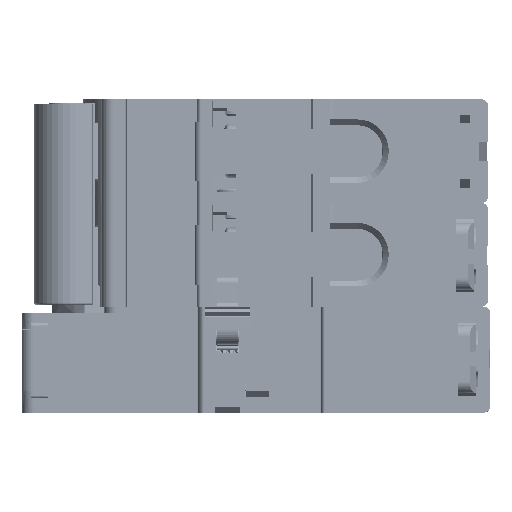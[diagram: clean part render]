
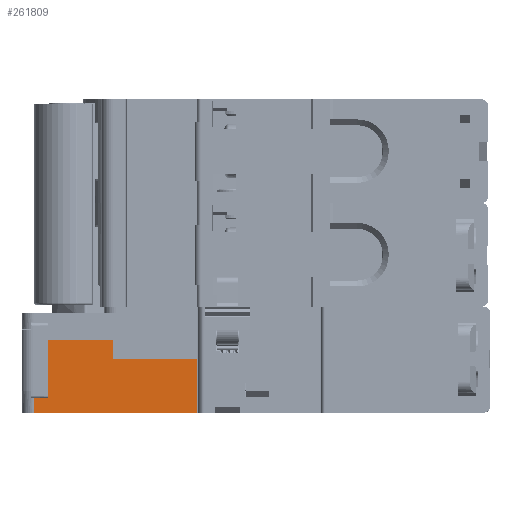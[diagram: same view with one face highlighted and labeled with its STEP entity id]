
A CAD part, left-side view. The second image highlights one B-rep face of the part: STEP entity #261809.
In plain terms, the highlighted planar face has unit normal (-1, 0, 0).
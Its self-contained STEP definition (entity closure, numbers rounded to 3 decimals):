
#5207 = EDGE_CURVE ( 'NONE', #152888, #232212, #65084, .T. ) ;
#13719 = CARTESIAN_POINT ( 'NONE',  ( 19., 75., -6.7 ) ) ;
#17415 = CARTESIAN_POINT ( 'NONE',  ( 19., 77.5, -9.1 ) ) ;
#19503 = DIRECTION ( 'NONE',  ( 0., 0., 1. ) ) ;
#20745 = ORIENTED_EDGE ( 'NONE', *, *, #106282, .F. ) ;
#33142 = LINE ( 'NONE', #302821, #155406 ) ;
#42258 = VECTOR ( 'NONE', #82289, 1000. ) ;
#49910 = VECTOR ( 'NONE', #199335, 1000. ) ;
#50610 = VERTEX_POINT ( 'NONE', #115491 ) ;
#65084 = LINE ( 'NONE', #213416, #250812 ) ;
#82289 = DIRECTION ( 'NONE',  ( 0., -1., 0. ) ) ;
#97123 = EDGE_CURVE ( 'NONE', #153062, #303165, #128031, .T. ) ;
#103109 = DIRECTION ( 'NONE',  ( 0., 0., -1. ) ) ;
#106282 = EDGE_CURVE ( 'NONE', #153062, #152888, #352819, .T. ) ;
#115491 = CARTESIAN_POINT ( 'NONE',  ( 19., 64., 0. ) ) ;
#118830 = EDGE_CURVE ( 'NONE', #213914, #330143, #33142, .T. ) ;
#122339 = ORIENTED_EDGE ( 'NONE', *, *, #5207, .F. ) ;
#127373 = VECTOR ( 'NONE', #239613, 1000. ) ;
#128031 = LINE ( 'NONE', #381807, #332991 ) ;
#135002 = ORIENTED_EDGE ( 'NONE', *, *, #97123, .T. ) ;
#136941 = VERTEX_POINT ( 'NONE', #214230 ) ;
#142724 = EDGE_CURVE ( 'NONE', #136941, #50610, #242187, .T. ) ;
#142864 = ORIENTED_EDGE ( 'NONE', *, *, #142724, .F. ) ;
#143753 = PLANE ( 'NONE',  #345114 ) ;
#152888 = VERTEX_POINT ( 'NONE', #13719 ) ;
#153062 = VERTEX_POINT ( 'NONE', #270366 ) ;
#155406 = VECTOR ( 'NONE', #177201, 1000. ) ;
#161004 = ORIENTED_EDGE ( 'NONE', *, *, #315538, .F. ) ;
#177201 = DIRECTION ( 'NONE',  ( 0., 0., 1. ) ) ;
#185062 = VECTOR ( 'NONE', #324611, 1000. ) ;
#187170 = ORIENTED_EDGE ( 'NONE', *, *, #118830, .T. ) ;
#188439 = EDGE_LOOP ( 'NONE', ( #353132, #187170, #161004, #142864, #215175, #122339, #20745, #135002 ) ) ;
#190226 = CARTESIAN_POINT ( 'NONE',  ( 19., 64., 8.9 ) ) ;
#198723 = LINE ( 'NONE', #203911, #42258 ) ;
#199335 = DIRECTION ( 'NONE',  ( 0., -1., 0. ) ) ;
#203911 = CARTESIAN_POINT ( 'NONE',  ( 19., 65.5, -9.1 ) ) ;
#205708 = CARTESIAN_POINT ( 'NONE',  ( 19., 65.5, 0. ) ) ;
#206891 = CARTESIAN_POINT ( 'NONE',  ( 19., 75., 3.3 ) ) ;
#213416 = CARTESIAN_POINT ( 'NONE',  ( 19., 75., -6.9 ) ) ;
#213914 = VERTEX_POINT ( 'NONE', #337477 ) ;
#214230 = CARTESIAN_POINT ( 'NONE',  ( 19., 64., 3.3 ) ) ;
#215175 = ORIENTED_EDGE ( 'NONE', *, *, #301536, .T. ) ;
#232212 = VERTEX_POINT ( 'NONE', #394028 ) ;
#239613 = DIRECTION ( 'NONE',  ( 0., 1., 0. ) ) ;
#242187 = LINE ( 'NONE', #190226, #261784 ) ;
#246153 = DIRECTION ( 'NONE',  ( 0., 0., 1. ) ) ;
#250812 = VECTOR ( 'NONE', #246153, 1000. ) ;
#255619 = DIRECTION ( 'NONE',  ( 0., 0., -1. ) ) ;
#261784 = VECTOR ( 'NONE', #255619, 1000. ) ;
#261809 = ADVANCED_FACE ( 'NONE', ( #335541 ), #143753, .T. ) ;
#265394 = CARTESIAN_POINT ( 'NONE',  ( 19., 65.5, -8.9 ) ) ;
#270366 = CARTESIAN_POINT ( 'NONE',  ( 19., 77.5, -6.7 ) ) ;
#295228 = EDGE_CURVE ( 'NONE', #303165, #213914, #198723, .T. ) ;
#298270 = LINE ( 'NONE', #206891, #127373 ) ;
#301536 = EDGE_CURVE ( 'NONE', #136941, #232212, #298270, .T. ) ;
#302821 = CARTESIAN_POINT ( 'NONE',  ( 19., 49.7, 0. ) ) ;
#303165 = VERTEX_POINT ( 'NONE', #17415 ) ;
#315538 = EDGE_CURVE ( 'NONE', #50610, #330143, #321837, .T. ) ;
#321837 = LINE ( 'NONE', #205708, #185062 ) ;
#324611 = DIRECTION ( 'NONE',  ( 0., -1., 0. ) ) ;
#330143 = VERTEX_POINT ( 'NONE', #380356 ) ;
#332991 = VECTOR ( 'NONE', #103109, 1000. ) ;
#335541 = FACE_OUTER_BOUND ( 'NONE', #188439, .T. ) ;
#337477 = CARTESIAN_POINT ( 'NONE',  ( 19., 49.7, -9.1 ) ) ;
#345114 = AXIS2_PLACEMENT_3D ( 'NONE', #265394, #359574, #19503 ) ;
#352819 = LINE ( 'NONE', #390484, #49910 ) ;
#353132 = ORIENTED_EDGE ( 'NONE', *, *, #295228, .T. ) ;
#359574 = DIRECTION ( 'NONE',  ( -1., 0., 0. ) ) ;
#380356 = CARTESIAN_POINT ( 'NONE',  ( 19., 49.7, 0. ) ) ;
#381807 = CARTESIAN_POINT ( 'NONE',  ( 19., 77.5, -8.9 ) ) ;
#390484 = CARTESIAN_POINT ( 'NONE',  ( 19., 78., -6.7 ) ) ;
#394028 = CARTESIAN_POINT ( 'NONE',  ( 19., 75., 3.3 ) ) ;
